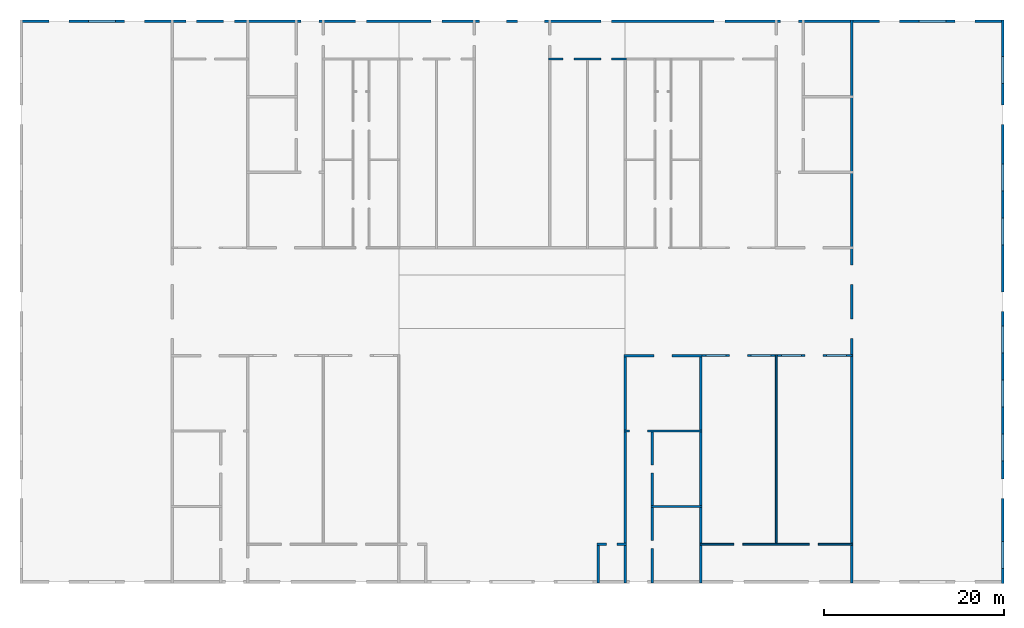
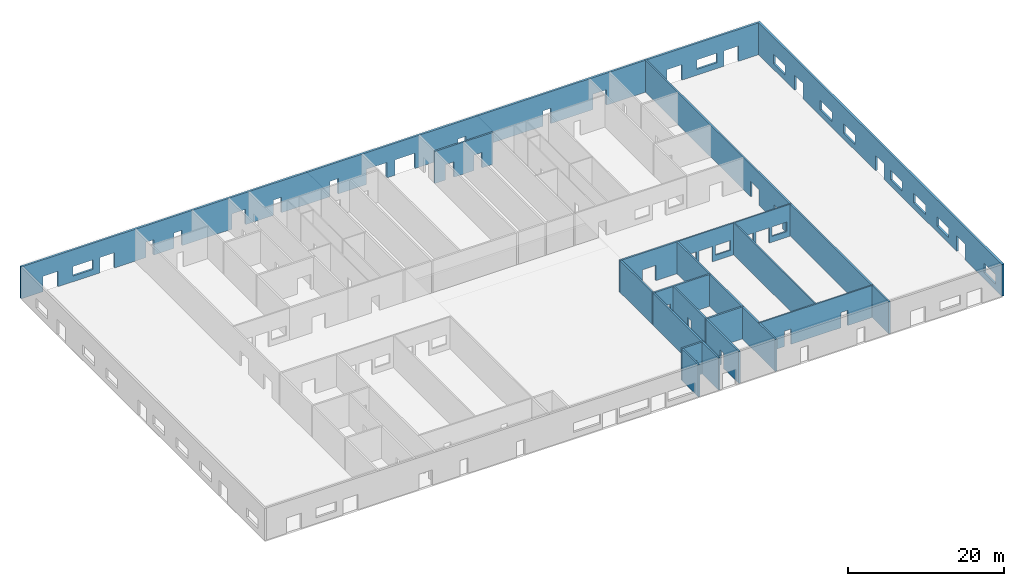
# One storey, part 3 of 4: 15 walls, 60 openings.
"""IFC4 building model written with IfcOpenShell, lengths in millimetres."""

import ifcopenshell
import ifcopenshell.guid

model = None  # the IFC model being written
_history = None  # IfcOwnerHistory: only IFC2X3 demands one
_inside = {}  # id of a spatial element -> (the spatial element, [elements in it])
_under = {}  # id of a project, library or spatial element -> (it, [spatial elements below it])
_declared = {}  # id of a project -> (the project, [libraries it declares])
_typed = {}  # id of a type object -> (the type object, [elements of that type])
_made_of = {}  # id of a material, layer set ... -> (it, [elements and type objects made of it])


def new_model(schema):
    """Start an empty IFC model of exactly this schema.

    Asked for "IFC4X3", IfcOpenShell would pick the latest addendum, in which some entities
    have other attributes; the version numbers below select the first issue.
    IFC2X3 requires an IfcOwnerHistory on every rooted entity: one is made here for all.
    """
    global model, _history
    if schema == "IFC4X3":
        model = ifcopenshell.file(schema_version=(4, 3, 0, 0))
    else:
        model = ifcopenshell.file(schema=schema)
    _inside.clear()
    _under.clear()
    _declared.clear()
    _typed.clear()
    _made_of.clear()
    _history = None
    if model.schema == "IFC2X3":
        org = make("IfcOrganization", Name="unknown")
        user = make(
            "IfcPersonAndOrganization",
            ThePerson=make("IfcPerson", FamilyName="unknown"),
            TheOrganization=org,
        )
        app = make(
            "IfcApplication",
            ApplicationDeveloper=org,
            Version="unknown",
            ApplicationFullName="unknown",
            ApplicationIdentifier="unknown",
        )
        _history = make(
            "IfcOwnerHistory",
            OwningUser=user,
            OwningApplication=app,
            ChangeAction="ADDED",
            CreationDate=0,
        )
    return model


def make(cls, **values):
    """One entity of the class cls with the attributes given. An attribute that is None is left unset."""
    return model.create_entity(
        cls, **{name: value for name, value in values.items() if value is not None}
    )


def rooted(cls, **values):
    """An entity with a GlobalId (a new one), such as an element, a storey or a relation."""
    return make(cls, GlobalId=ifcopenshell.guid.new(), OwnerHistory=_history, **values)


def si_unit(unit_type, name, prefix=None):
    """IfcSIUnit, for example si_unit("LENGTHUNIT", "METRE", prefix="MILLI")."""
    return make("IfcSIUnit", UnitType=unit_type, Prefix=prefix, Name=name)


def assignment(units):
    """IfcUnitAssignment: the units of a project."""
    return None if units is None else make("IfcUnitAssignment", Units=units)


def point(xyz):
    """IfcCartesianPoint."""
    return None if xyz is None else make("IfcCartesianPoint", Coordinates=xyz)


def direction(xyz):
    """IfcDirection."""
    return None if xyz is None else make("IfcDirection", DirectionRatios=xyz)


def frame(location, z_axis=None, x_axis=None):
    """IfcAxis2Placement3D, a coordinate frame: its origin and axes. An axis left out is left unset."""
    return make(
        "IfcAxis2Placement3D",
        Location=point(location),
        Axis=direction(z_axis),
        RefDirection=direction(x_axis),
    )


def origin_with_axes():
    """The frame at (0, 0, 0) with the z axis (0, 0, 1) and the x axis (1, 0, 0) written out."""
    return frame((0.0, 0.0, 0.0), z_axis=(0.0, 0.0, 1.0), x_axis=(1.0, 0.0, 0.0))


def place(relative_to, where):
    """IfcLocalPlacement: puts the frame where relative to a parent placement (None: the world)."""
    return make(
        "IfcLocalPlacement", PlacementRelTo=relative_to, RelativePlacement=where
    )


def context(
    kind, dimensions, precision=None, world=None, true_north=None, identifier=None
):
    """IfcGeometricRepresentationContext, for example the 3D "Model" context."""
    return make(
        "IfcGeometricRepresentationContext",
        ContextIdentifier=identifier,
        ContextType=kind,
        CoordinateSpaceDimension=dimensions,
        Precision=precision,
        WorldCoordinateSystem=world,
        TrueNorth=true_north,
    )


def subcontext(parent, identifier, kind, view, scale=None):
    """IfcGeometricRepresentationSubContext, for example "Body" below "Model"."""
    return make(
        "IfcGeometricRepresentationSubContext",
        ContextIdentifier=identifier,
        ContextType=kind,
        ParentContext=parent,
        TargetScale=scale,
        TargetView=view,
    )


def project(units=None, contexts=None):
    """IfcProject with its units and contexts."""
    return rooted(
        "IfcProject",
        Name="project",
        RepresentationContexts=contexts,
        UnitsInContext=assignment(units),
    )


def spatial(cls, under=None, at=None, **own):
    """A site, building, storey or space (cls), placed at a placement, below another one or the project."""
    s = rooted(cls, ObjectPlacement=at, **own)
    if under is not None:
        _under.setdefault(under.id(), (under, []))[1].append(s)
    return s


def point_list(points):
    """IfcCartesianPointList2D or 3D."""
    cls = (
        "IfcCartesianPointList2D" if len(points[0]) == 2 else "IfcCartesianPointList3D"
    )
    return make(cls, CoordList=points)


def indexed_curve(points, segments=None, self_intersect=None):
    """IfcIndexedPolyCurve: lines and arcs through numbered points (the first is 1)."""
    return make(
        "IfcIndexedPolyCurve",
        Points=point_list(points),
        Segments=segments,
        SelfIntersect=self_intersect,
    )


def outline(outer, holes=None, kind="AREA"):
    """IfcArbitraryClosedProfileDef: a profile drawn as a closed curve; with holes, ...WithVoids."""
    if holes is None:
        return make("IfcArbitraryClosedProfileDef", ProfileType=kind, OuterCurve=outer)
    return make(
        "IfcArbitraryProfileDefWithVoids",
        ProfileType=kind,
        OuterCurve=outer,
        InnerCurves=holes,
    )


def extrude(swept, where, along, depth):
    """IfcExtrudedAreaSolid: the profile swept, set in the frame where, extruded along a direction by depth."""
    return make(
        "IfcExtrudedAreaSolid",
        SweptArea=swept,
        Position=where,
        ExtrudedDirection=direction(along),
        Depth=depth,
    )


def shape(context_of_items, identifier, shape_type, items):
    """IfcShapeRepresentation: the items that make up one representation, for example the "Body"."""
    return make(
        "IfcShapeRepresentation",
        ContextOfItems=context_of_items,
        RepresentationIdentifier=identifier,
        RepresentationType=shape_type,
        Items=items,
    )


def made_of(thing, what):
    """Note that an element or type object is made of a material, layer set ...; save() writes the relation."""
    if what is not None:
        _made_of.setdefault(what.id(), (what, []))[1].append(thing)
    return thing


def type_object(cls, material=None, **own):
    """A type object (cls), such as IfcWallType, which elements share."""
    return made_of(rooted(cls, **own), material)


def element(
    cls,
    number,
    at=None,
    inside=None,
    cuts=None,
    type_object=None,
    material=None,
    context=None,
    identifier="Body",
    shape_type=None,
    held_by="IfcProductDefinitionShape",
    body=None,
    shapes=None,
    **own,
):
    """One element of the class cls, such as IfcWall. Its Tag is "e" and its number.

    at: its placement. inside: the storey or other place that contains it. cuts: it is an
    opening in that element (IfcRelVoidsElement). A single representation is given by context,
    identifier, shape_type and body (its items); several are given by shapes. held_by: the class
    of the entity that holds the representations. save() writes the other relations.
    """
    e = rooted(cls, Tag="e%d" % number, ObjectPlacement=at, **own)
    if body is not None:
        shapes = [shape(context, identifier, shape_type, body)]
    if shapes is not None:
        e.Representation = make(held_by, Representations=shapes)
    if inside is not None:
        _inside.setdefault(inside.id(), (inside, []))[1].append(e)
    if cuts is not None:
        rooted(
            "IfcRelVoidsElement", RelatingBuildingElement=cuts, RelatedOpeningElement=e
        )
    if type_object is not None:
        _typed.setdefault(type_object.id(), (type_object, []))[1].append(e)
    return made_of(e, material)


def aggregate(whole, parts):
    """IfcRelAggregates: a whole, such as a stair, and the parts it consists of."""
    return rooted("IfcRelAggregates", RelatingObject=whole, RelatedObjects=parts)


def save(model, path):
    """Write the relations noted so far, then the file.

    IfcRelAggregates (storeys below a building ...), IfcRelContainedInSpatialStructure (elements
    in a storey), IfcRelDefinesByType, IfcRelAssociatesMaterial and IfcRelDeclares: one each for
    every whole, place, type object, material and project.
    """
    for whole, parts in _under.values():
        aggregate(whole, parts)
    for where, things in _inside.values():
        rooted(
            "IfcRelContainedInSpatialStructure",
            RelatedElements=things,
            RelatingStructure=where,
        )
    for kind, things in _typed.values():
        rooted("IfcRelDefinesByType", RelatedObjects=things, RelatingType=kind)
    for what, things in _made_of.values():
        rooted("IfcRelAssociatesMaterial", RelatedObjects=things, RelatingMaterial=what)
    for by, libraries in _declared.values():
        rooted("IfcRelDeclares", RelatingContext=by, RelatedDefinitions=libraries)
    model.write(path)


model = new_model("IFC4")

# Units and contexts
model_context = context("Model", 3, precision=1e-05, world=origin_with_axes())
body_context = subcontext(model_context, "Body", "Model", "MODEL_VIEW")
ifc_project = project(units=[si_unit("AREAUNIT", "SQUARE_METRE"), si_unit("VOLUMEUNIT", "CUBIC_METRE"), si_unit("LENGTHUNIT", "METRE", prefix="MILLI")], contexts=[model_context])

# Site, building, storey
site = spatial("IfcSite", under=ifc_project, Name="PIN 00000000 (sample)")
building = spatial("IfcBuilding", under=site, Name="Sample Shopping Mall")
storey = spatial("IfcBuildingStorey", under=building, Name="Ground Floor", Elevation=0.0)

# Wall, openings
wall_type_1 = type_object("IfcWallType", Name="WT-300", PredefinedType="SOLIDWALL")
wall_1_placement = place(None, frame((5250.0, 77849.99999999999, 0.0), z_axis=(0.0, 0.0, 1.0), x_axis=(1.0, 0.0, 0.0)))
wall_1 = element("IfcWall", 1, at=wall_1_placement, inside=storey, type_object=wall_type_1, Name="W34", context=body_context, shape_type="SweptSolid", body=[
    extrude(outline(indexed_curve([(0.0, 0.0), (0.0, 300.0), (109499.99999999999, 300.0), (109499.99999999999, 0.0), (0.0, 0.0)], self_intersect=False)), origin_with_axes(), (0.0, 0.0, 1.0), 5000.0),
])
opening_1_placement = place(wall_1_placement, frame((3250.0, -99.9999999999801, 0.0), z_axis=(0.0, 0.0, 1.0), x_axis=(1.0, 0.0, 0.0)))
element("IfcOpeningElement", 2, at=opening_1_placement, cuts=wall_1, Name="D12-opening", context=body_context, shape_type="SweptSolid", body=[
    extrude(outline(indexed_curve([(0.0, 0.0), (0.0, 500.0), (1100.0, 500.0), (1100.0, 0.0), (0.0, 0.0)], self_intersect=False)), origin_with_axes(), (0.0, 0.0, 1.0), 2400.0),
])
opening_2_placement = place(wall_1_placement, frame((4350.000000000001, -99.9999999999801, 0.0), z_axis=(0.0, 0.0, 1.0), x_axis=(1.0, 0.0, 0.0)))
element("IfcOpeningElement", 3, at=opening_2_placement, cuts=wall_1, Name="-opening", context=body_context, shape_type="SweptSolid", body=[
    extrude(outline(indexed_curve([(0.0, 0.0), (0.0, 500.0), (1100.0, 500.0), (1100.0, 0.0), (0.0, 0.0)], self_intersect=False)), origin_with_axes(), (0.0, 0.0, 1.0), 2400.0),
])
opening_3_placement = place(wall_1_placement, frame((11649.999999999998, -99.9999999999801, 0.0), z_axis=(0.0, 0.0, 1.0), x_axis=(1.0, 0.0, 0.0)))
element("IfcOpeningElement", 4, at=opening_3_placement, cuts=wall_1, Name="D13-opening", context=body_context, shape_type="SweptSolid", body=[
    extrude(outline(indexed_curve([(0.0, 0.0), (0.0, 500.0), (1100.0, 500.0), (1100.0, 0.0), (0.0, 0.0)], self_intersect=False)), origin_with_axes(), (0.0, 0.0, 1.0), 2400.0),
])
opening_4_placement = place(wall_1_placement, frame((12750.0, -99.9999999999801, 0.0), z_axis=(0.0, 0.0, 1.0), x_axis=(1.0, 0.0, 0.0)))
element("IfcOpeningElement", 5, at=opening_4_placement, cuts=wall_1, Name="-opening", context=body_context, shape_type="SweptSolid", body=[
    extrude(outline(indexed_curve([(0.0, 0.0), (0.0, 500.0), (1100.0, 500.0), (1100.0, 0.0), (0.0, 0.0)], self_intersect=False)), origin_with_axes(), (0.0, 0.0, 1.0), 2400.0),
])
opening_5_placement = place(wall_1_placement, frame((95650.0, -99.9999999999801, 0.0), z_axis=(0.0, 0.0, 1.0), x_axis=(1.0, 0.0, 0.0)))
element("IfcOpeningElement", 6, at=opening_5_placement, cuts=wall_1, Name="D21-opening", context=body_context, shape_type="SweptSolid", body=[
    extrude(outline(indexed_curve([(0.0, 0.0), (0.0, 500.0), (1100.0, 500.0), (1100.0, 0.0), (0.0, 0.0)], self_intersect=False)), origin_with_axes(), (0.0, 0.0, 1.0), 2400.0),
])
opening_6_placement = place(wall_1_placement, frame((96750.0, -99.9999999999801, 0.0), z_axis=(0.0, 0.0, 1.0), x_axis=(1.0, 0.0, 0.0)))
element("IfcOpeningElement", 7, at=opening_6_placement, cuts=wall_1, Name="-opening", context=body_context, shape_type="SweptSolid", body=[
    extrude(outline(indexed_curve([(0.0, 0.0), (0.0, 500.0), (1100.0, 500.0), (1100.0, 0.0), (0.0, 0.0)], self_intersect=False)), origin_with_axes(), (0.0, 0.0, 1.0), 2400.0),
])
opening_7_placement = place(wall_1_placement, frame((104050.00000000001, -99.9999999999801, 0.0), z_axis=(0.0, 0.0, 1.0), x_axis=(1.0, 0.0, 0.0)))
element("IfcOpeningElement", 8, at=opening_7_placement, cuts=wall_1, Name="D22-opening", context=body_context, shape_type="SweptSolid", body=[
    extrude(outline(indexed_curve([(0.0, 0.0), (0.0, 500.0), (1100.0, 500.0), (1100.0, 0.0), (0.0, 0.0)], self_intersect=False)), origin_with_axes(), (0.0, 0.0, 1.0), 2400.0),
])
opening_8_placement = place(wall_1_placement, frame((105150.0, -99.9999999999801, 0.0), z_axis=(0.0, 0.0, 1.0), x_axis=(1.0, 0.0, 0.0)))
element("IfcOpeningElement", 9, at=opening_8_placement, cuts=wall_1, Name="-opening", context=body_context, shape_type="SweptSolid", body=[
    extrude(outline(indexed_curve([(0.0, 0.0), (0.0, 500.0), (1100.0, 500.0), (1100.0, 0.0), (0.0, 0.0)], self_intersect=False)), origin_with_axes(), (0.0, 0.0, 1.0), 2400.0),
])
opening_9_placement = place(wall_1_placement, frame((18450.000000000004, -99.9999999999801, 0.0), z_axis=(0.0, 0.0, 1.0), x_axis=(1.0, 0.0, 0.0)))
element("IfcOpeningElement", 10, at=opening_9_placement, cuts=wall_1, Name="D27-opening", context=body_context, shape_type="SweptSolid", body=[
    extrude(outline(indexed_curve([(0.0, 0.0), (0.0, 500.0), (1200.0, 500.0), (1200.0, 0.0), (0.0, 0.0)], self_intersect=False)), origin_with_axes(), (0.0, 0.0, 1.0), 2400.0),
])
opening_10_placement = place(wall_1_placement, frame((22649.999999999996, -99.9999999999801, 0.0), z_axis=(0.0, 0.0, 1.0), x_axis=(1.0, 0.0, 0.0)))
element("IfcOpeningElement", 11, at=opening_10_placement, cuts=wall_1, Name="D28-opening", context=body_context, shape_type="SweptSolid", body=[
    extrude(outline(indexed_curve([(0.0, 0.0), (0.0, 500.0), (1200.0, 500.0), (1200.0, 0.0), (0.0, 0.0)], self_intersect=False)), origin_with_axes(), (0.0, 0.0, 1.0), 2400.0),
])
opening_11_placement = place(wall_1_placement, frame((37350.0, -99.9999999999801, 0.0), z_axis=(0.0, 0.0, 1.0), x_axis=(1.0, 0.0, 0.0)))
element("IfcOpeningElement", 12, at=opening_11_placement, cuts=wall_1, Name="D29-opening", context=body_context, shape_type="SweptSolid", body=[
    extrude(outline(indexed_curve([(0.0, 0.0), (0.0, 500.0), (1200.0, 500.0), (1200.0, 0.0), (0.0, 0.0)], self_intersect=False)), origin_with_axes(), (0.0, 0.0, 1.0), 2400.0),
])
opening_12_placement = place(wall_1_placement, frame((45750.0, -99.9999999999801, 0.0), z_axis=(0.0, 0.0, 1.0), x_axis=(1.0, 0.0, 0.0)))
element("IfcOpeningElement", 13, at=opening_12_placement, cuts=wall_1, Name="D30-opening", context=body_context, shape_type="SweptSolid", body=[
    extrude(outline(indexed_curve([(0.0, 0.0), (0.0, 500.0), (1200.0, 500.0), (1200.0, 0.0), (0.0, 0.0)], self_intersect=False)), origin_with_axes(), (0.0, 0.0, 1.0), 2400.0),
])
opening_13_placement = place(wall_1_placement, frame((64650.00000000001, -99.9999999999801, 0.0), z_axis=(0.0, 0.0, 1.0), x_axis=(1.0, 0.0, 0.0)))
element("IfcOpeningElement", 14, at=opening_13_placement, cuts=wall_1, Name="D31-opening", context=body_context, shape_type="SweptSolid", body=[
    extrude(outline(indexed_curve([(0.0, 0.0), (0.0, 500.0), (1200.0, 500.0), (1200.0, 0.0), (0.0, 0.0)], self_intersect=False)), origin_with_axes(), (0.0, 0.0, 1.0), 2400.0),
])
opening_14_placement = place(wall_1_placement, frame((77250.0, -99.9999999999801, 0.0), z_axis=(0.0, 0.0, 1.0), x_axis=(1.0, 0.0, 0.0)))
element("IfcOpeningElement", 15, at=opening_14_placement, cuts=wall_1, Name="D32-opening", context=body_context, shape_type="SweptSolid", body=[
    extrude(outline(indexed_curve([(0.0, 0.0), (0.0, 500.0), (1200.0, 500.0), (1200.0, 0.0), (0.0, 0.0)], self_intersect=False)), origin_with_axes(), (0.0, 0.0, 1.0), 2400.0),
])
opening_15_placement = place(wall_1_placement, frame((31250.0, -99.9999999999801, 0.0), z_axis=(0.0, 0.0, 1.0), x_axis=(1.0, 0.0, 0.0)))
element("IfcOpeningElement", 16, at=opening_15_placement, cuts=wall_1, Name="D56-opening", context=body_context, shape_type="SweptSolid", body=[
    extrude(outline(indexed_curve([(0.0, 0.0), (0.0, 500.0), (1000.0, 500.0), (1000.0, 0.0), (0.0, 0.0)], self_intersect=False)), origin_with_axes(), (0.0, 0.0, 1.0), 2400.0),
])
opening_16_placement = place(wall_1_placement, frame((32250.0, -99.9999999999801, 0.0), z_axis=(0.0, 0.0, 1.0), x_axis=(1.0, 0.0, 0.0)))
element("IfcOpeningElement", 17, at=opening_16_placement, cuts=wall_1, Name="-opening", context=body_context, shape_type="SweptSolid", body=[
    extrude(outline(indexed_curve([(0.0, 0.0), (0.0, 500.0), (1000.0, 500.0), (1000.0, 0.0), (0.0, 0.0)], self_intersect=False)), origin_with_axes(), (0.0, 0.0, 1.0), 2400.0),
])
opening_17_placement = place(wall_1_placement, frame((51150.0, -99.9999999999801, 0.0), z_axis=(0.0, 0.0, 1.0), x_axis=(1.0, 0.0, 0.0)))
element("IfcOpeningElement", 18, at=opening_17_placement, cuts=wall_1, Name="D68-opening", context=body_context, shape_type="SweptSolid", body=[
    extrude(outline(indexed_curve([(0.0, 0.0), (0.0, 500.0), (1500.0, 500.0), (1500.0, 0.0), (0.0, 0.0)], self_intersect=False)), origin_with_axes(), (0.0, 0.0, 1.0), 2400.0),
])
opening_18_placement = place(wall_1_placement, frame((52650.0, -99.9999999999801, 0.0), z_axis=(0.0, 0.0, 1.0), x_axis=(1.0, 0.0, 0.0)))
element("IfcOpeningElement", 19, at=opening_18_placement, cuts=wall_1, Name="-opening", context=body_context, shape_type="SweptSolid", body=[
    extrude(outline(indexed_curve([(0.0, 0.0), (0.0, 500.0), (1500.0, 500.0), (1500.0, 0.0), (0.0, 0.0)], self_intersect=False)), origin_with_axes(), (0.0, 0.0, 1.0), 2400.0),
])
opening_19_placement = place(wall_1_placement, frame((55350.0, -99.9999999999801, 0.0), z_axis=(0.0, 0.0, 1.0), x_axis=(1.0, 0.0, 0.0)))
element("IfcOpeningElement", 20, at=opening_19_placement, cuts=wall_1, Name="D69-opening", context=body_context, shape_type="SweptSolid", body=[
    extrude(outline(indexed_curve([(0.0, 0.0), (0.0, 500.0), (1500.0, 500.0), (1500.0, 0.0), (0.0, 0.0)], self_intersect=False)), origin_with_axes(), (0.0, 0.0, 1.0), 2400.0),
])
opening_20_placement = place(wall_1_placement, frame((56850.0, -99.9999999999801, 0.0), z_axis=(0.0, 0.0, 1.0), x_axis=(1.0, 0.0, 0.0)))
element("IfcOpeningElement", 21, at=opening_20_placement, cuts=wall_1, Name="-opening", context=body_context, shape_type="SweptSolid", body=[
    extrude(outline(indexed_curve([(0.0, 0.0), (0.0, 500.0), (1500.0, 500.0), (1500.0, 0.0), (0.0, 0.0)], self_intersect=False)), origin_with_axes(), (0.0, 0.0, 1.0), 2400.0),
])
opening_21_placement = place(wall_1_placement, frame((84650.0, -99.9999999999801, 0.0), z_axis=(0.0, 0.0, 1.0), x_axis=(1.0, 0.0, 0.0)))
element("IfcOpeningElement", 22, at=opening_21_placement, cuts=wall_1, Name="D84-opening", context=body_context, shape_type="SweptSolid", body=[
    extrude(outline(indexed_curve([(0.0, 0.0), (0.0, 500.0), (1000.0, 500.0), (1000.0, 0.0), (0.0, 0.0)], self_intersect=False)), origin_with_axes(), (0.0, 0.0, 1.0), 2400.0),
])
opening_22_placement = place(wall_1_placement, frame((85650.0, -99.9999999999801, 0.0), z_axis=(0.0, 0.0, 1.0), x_axis=(1.0, 0.0, 0.0)))
element("IfcOpeningElement", 23, at=opening_22_placement, cuts=wall_1, Name="-opening", context=body_context, shape_type="SweptSolid", body=[
    extrude(outline(indexed_curve([(0.0, 0.0), (0.0, 500.0), (1000.0, 500.0), (1000.0, 0.0), (0.0, 0.0)], self_intersect=False)), origin_with_axes(), (0.0, 0.0, 1.0), 2400.0),
])
opening_23_placement = place(wall_1_placement, frame((7650.0, -99.9999999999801, 900.0), z_axis=(0.0, 0.0, 1.0), x_axis=(1.0, 0.0, 0.0)))
element("IfcOpeningElement", 24, at=opening_23_placement, cuts=wall_1, Name="-opening", context=body_context, shape_type="SweptSolid", body=[
    extrude(outline(indexed_curve([(0.0, 0.0), (0.0, 500.0), (3000.0, 500.0), (3000.0, 0.0), (0.0, 0.0)], self_intersect=False)), origin_with_axes(), (0.0, 0.0, 1.0), 1500.0),
])
opening_24_placement = place(wall_1_placement, frame((100050.00000000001, -99.9999999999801, 900.0), z_axis=(0.0, 0.0, 1.0), x_axis=(1.0, 0.0, 0.0)))
element("IfcOpeningElement", 25, at=opening_24_placement, cuts=wall_1, Name="-opening", context=body_context, shape_type="SweptSolid", body=[
    extrude(outline(indexed_curve([(0.0, 0.0), (0.0, 500.0), (3000.0, 500.0), (3000.0, 0.0), (0.0, 0.0)], self_intersect=False)), origin_with_axes(), (0.0, 0.0, 1.0), 1500.0),
])

wall_2_placement = place(None, frame((114750.0, 15449.999999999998, 0.0), z_axis=(0.0, 0.0, 1.0), x_axis=(6.123233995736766e-17, 1.0, 0.0)))
wall_2 = element("IfcWall", 26, at=wall_2_placement, inside=storey, type_object=wall_type_1, Name="W65", context=body_context, shape_type="SweptSolid", body=[
    extrude(outline(indexed_curve([(0.0, 0.0), (0.0, 300.0), (62699.99999999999, 300.0), (62699.99999999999, 0.0), (0.0, 0.0)], self_intersect=False)), origin_with_axes(), (0.0, 0.0, 1.0), 5000.0),
])
opening_25_placement = place(wall_2_placement, frame((9450.0, -99.99999999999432, 0.0), z_axis=(0.0, 0.0, 1.0), x_axis=(1.0, 0.0, 0.0)))
element("IfcOpeningElement", 27, at=opening_25_placement, cuts=wall_2, Name="D16-opening", context=body_context, shape_type="SweptSolid", body=[
    extrude(outline(indexed_curve([(0.0, 0.0), (0.0, 500.0), (1100.0, 500.0), (1100.0, 0.0), (0.0, 0.0)], self_intersect=False)), origin_with_axes(), (0.0, 0.0, 1.0), 2400.0),
])
opening_26_placement = place(wall_2_placement, frame((10550.0, -99.99999999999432, 0.0), z_axis=(0.0, 0.0, 1.0), x_axis=(1.0, 0.0, 0.0)))
element("IfcOpeningElement", 28, at=opening_26_placement, cuts=wall_2, Name="-opening", context=body_context, shape_type="SweptSolid", body=[
    extrude(outline(indexed_curve([(0.0, 0.0), (0.0, 500.0), (1100.0, 500.0), (1100.0, 0.0), (0.0, 0.0)], self_intersect=False)), origin_with_axes(), (0.0, 0.0, 1.0), 2400.0),
])
opening_27_placement = place(wall_2_placement, frame((30250.000000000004, -99.99999999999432, 0.0), z_axis=(0.0, 0.0, 1.0), x_axis=(1.0, 0.0, 0.0)))
element("IfcOpeningElement", 29, at=opening_27_placement, cuts=wall_2, Name="D17-opening", context=body_context, shape_type="SweptSolid", body=[
    extrude(outline(indexed_curve([(0.0, 0.0), (0.0, 500.0), (1100.0, 500.0), (1100.0, 0.0), (0.0, 0.0)], self_intersect=False)), origin_with_axes(), (0.0, 0.0, 1.0), 2400.0),
])
opening_28_placement = place(wall_2_placement, frame((31349.999999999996, -99.99999999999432, 0.0), z_axis=(0.0, 0.0, 1.0), x_axis=(1.0, 0.0, 0.0)))
element("IfcOpeningElement", 30, at=opening_28_placement, cuts=wall_2, Name="-opening", context=body_context, shape_type="SweptSolid", body=[
    extrude(outline(indexed_curve([(0.0, 0.0), (0.0, 500.0), (1100.0, 500.0), (1100.0, 0.0), (0.0, 0.0)], self_intersect=False)), origin_with_axes(), (0.0, 0.0, 1.0), 2400.0),
])
opening_29_placement = place(wall_2_placement, frame((51049.99999999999, -99.99999999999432, 0.0), z_axis=(0.0, 0.0, 1.0), x_axis=(1.0, 0.0, 0.0)))
element("IfcOpeningElement", 31, at=opening_29_placement, cuts=wall_2, Name="D18-opening", context=body_context, shape_type="SweptSolid", body=[
    extrude(outline(indexed_curve([(0.0, 0.0), (0.0, 500.0), (1100.0, 500.0), (1100.0, 0.0), (0.0, 0.0)], self_intersect=False)), origin_with_axes(), (0.0, 0.0, 1.0), 2400.0),
])
opening_30_placement = place(wall_2_placement, frame((52149.99999999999, -99.99999999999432, 0.0), z_axis=(0.0, 0.0, 1.0), x_axis=(1.0, 0.0, 0.0)))
element("IfcOpeningElement", 32, at=opening_30_placement, cuts=wall_2, Name="-opening", context=body_context, shape_type="SweptSolid", body=[
    extrude(outline(indexed_curve([(0.0, 0.0), (0.0, 500.0), (1100.0, 500.0), (1100.0, 0.0), (0.0, 0.0)], self_intersect=False)), origin_with_axes(), (0.0, 0.0, 1.0), 2400.0),
])
opening_31_placement = place(wall_2_placement, frame((1650.000000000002, -99.99999999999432, 900.0), z_axis=(0.0, 0.0, 1.0), x_axis=(1.0, 0.0, 0.0)))
element("IfcOpeningElement", 33, at=opening_31_placement, cuts=wall_2, Name="-opening", context=body_context, shape_type="SweptSolid", body=[
    extrude(outline(indexed_curve([(0.0, 0.0), (0.0, 500.0), (3000.0, 500.0), (3000.0, 0.0), (0.0, 0.0)], self_intersect=False)), origin_with_axes(), (0.0, 0.0, 1.0), 1500.0),
])
opening_32_placement = place(wall_2_placement, frame((13650.000000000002, -99.99999999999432, 900.0), z_axis=(0.0, 0.0, 1.0), x_axis=(1.0, 0.0, 0.0)))
element("IfcOpeningElement", 34, at=opening_32_placement, cuts=wall_2, Name="-opening", context=body_context, shape_type="SweptSolid", body=[
    extrude(outline(indexed_curve([(0.0, 0.0), (0.0, 500.0), (3000.0, 500.0), (3000.0, 0.0), (0.0, 0.0)], self_intersect=False)), origin_with_axes(), (0.0, 0.0, 1.0), 1500.0),
])
opening_33_placement = place(wall_2_placement, frame((19650.0, -99.99999999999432, 900.0), z_axis=(0.0, 0.0, 1.0), x_axis=(1.0, 0.0, 0.0)))
element("IfcOpeningElement", 35, at=opening_33_placement, cuts=wall_2, Name="-opening", context=body_context, shape_type="SweptSolid", body=[
    extrude(outline(indexed_curve([(0.0, 0.0), (0.0, 500.0), (3000.0, 500.0), (3000.0, 0.0), (0.0, 0.0)], self_intersect=False)), origin_with_axes(), (0.0, 0.0, 1.0), 1500.0),
])
opening_34_placement = place(wall_2_placement, frame((25650.0, -99.99999999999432, 900.0), z_axis=(0.0, 0.0, 1.0), x_axis=(1.0, 0.0, 0.0)))
element("IfcOpeningElement", 36, at=opening_34_placement, cuts=wall_2, Name="-opening", context=body_context, shape_type="SweptSolid", body=[
    extrude(outline(indexed_curve([(0.0, 0.0), (0.0, 500.0), (3000.0, 500.0), (3000.0, 0.0), (0.0, 0.0)], self_intersect=False)), origin_with_axes(), (0.0, 0.0, 1.0), 1500.0),
])
opening_35_placement = place(wall_2_placement, frame((37650.00000000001, -99.99999999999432, 900.0), z_axis=(0.0, 0.0, 1.0), x_axis=(1.0, 0.0, 0.0)))
element("IfcOpeningElement", 37, at=opening_35_placement, cuts=wall_2, Name="-opening", context=body_context, shape_type="SweptSolid", body=[
    extrude(outline(indexed_curve([(0.0, 0.0), (0.0, 500.0), (3000.0, 500.0), (3000.0, 0.0), (0.0, 0.0)], self_intersect=False)), origin_with_axes(), (0.0, 0.0, 1.0), 1500.0),
])
opening_36_placement = place(wall_2_placement, frame((43650.00000000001, -99.99999999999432, 900.0), z_axis=(0.0, 0.0, 1.0), x_axis=(1.0, 0.0, 0.0)))
element("IfcOpeningElement", 38, at=opening_36_placement, cuts=wall_2, Name="-opening", context=body_context, shape_type="SweptSolid", body=[
    extrude(outline(indexed_curve([(0.0, 0.0), (0.0, 500.0), (3000.0, 500.0), (3000.0, 0.0), (0.0, 0.0)], self_intersect=False)), origin_with_axes(), (0.0, 0.0, 1.0), 1500.0),
])
opening_37_placement = place(wall_2_placement, frame((55650.00000000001, -99.99999999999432, 900.0), z_axis=(0.0, 0.0, 1.0), x_axis=(1.0, 0.0, 0.0)))
element("IfcOpeningElement", 39, at=opening_37_placement, cuts=wall_2, Name="-opening", context=body_context, shape_type="SweptSolid", body=[
    extrude(outline(indexed_curve([(0.0, 0.0), (0.0, 500.0), (3000.0, 500.0), (3000.0, 0.0), (0.0, 0.0)], self_intersect=False)), origin_with_axes(), (0.0, 0.0, 1.0), 1500.0),
])

wall_type_2 = type_object("IfcWallType", Name="WT-200", PredefinedType="SOLIDWALL")
wall_3_placement = place(None, frame((80900.0, 19700.0, 0.0), z_axis=(0.0, 0.0, 1.0), x_axis=(1.0, 0.0, 0.0)))
wall_3 = element("IfcWall", 40, at=wall_3_placement, inside=storey, type_object=wall_type_2, Name="W4", context=body_context, shape_type="SweptSolid", body=[
    extrude(outline(indexed_curve([(0.0, 0.0), (0.0, 200.0), (16999.999999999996, 200.0), (16999.999999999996, 0.0), (0.0, 0.0)], self_intersect=False)), origin_with_axes(), (0.0, 0.0, 1.0), 5000.0),
])
opening_38_placement = place(wall_3_placement, frame((3799.9999999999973, -99.99999999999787, 0.0), z_axis=(0.0, 0.0, 1.0), x_axis=(1.0, 0.0, 0.0)))
element("IfcOpeningElement", 41, at=opening_38_placement, cuts=wall_3, Name="-opening", context=body_context, shape_type="SweptSolid", body=[
    extrude(outline(indexed_curve([(0.0, 0.0), (0.0, 400.0), (1000.0, 400.0), (1000.0, 0.0), (0.0, 0.0)], self_intersect=False)), origin_with_axes(), (0.0, 0.0, 1.0), 2400.0),
])
opening_39_placement = place(wall_3_placement, frame((12199.999999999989, -99.99999999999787, 0.0), z_axis=(0.0, 0.0, 1.0), x_axis=(1.0, 0.0, 0.0)))
element("IfcOpeningElement", 42, at=opening_39_placement, cuts=wall_3, Name="-opening", context=body_context, shape_type="SweptSolid", body=[
    extrude(outline(indexed_curve([(0.0, 0.0), (0.0, 400.0), (1000.0, 400.0), (1000.0, 0.0), (0.0, 0.0)], self_intersect=False)), origin_with_axes(), (0.0, 0.0, 1.0), 2400.0),
])

wall_4_placement = place(None, frame((80900.0, 40699.99999999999, 0.0), z_axis=(0.0, 0.0, 1.0), x_axis=(1.0, 0.0, 0.0)))
wall_4 = element("IfcWall", 43, at=wall_4_placement, inside=storey, type_object=wall_type_2, Name="W12", context=body_context, shape_type="SweptSolid", body=[
    extrude(outline(indexed_curve([(0.0, 0.0), (0.0, 200.0), (16999.999999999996, 200.0), (16999.999999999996, 0.0), (0.0, 0.0)], self_intersect=False)), origin_with_axes(), (0.0, 0.0, 1.0), 5000.0),
])
opening_40_placement = place(wall_4_placement, frame((3299.9999999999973, -100.00000000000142, 0.0), z_axis=(0.0, 0.0, 1.0), x_axis=(1.0, 0.0, 0.0)))
element("IfcOpeningElement", 44, at=opening_40_placement, cuts=wall_4, Name="D48-opening", context=body_context, shape_type="SweptSolid", body=[
    extrude(outline(indexed_curve([(0.0, 0.0), (0.0, 400.0), (1000.0, 400.0), (1000.0, 0.0), (0.0, 0.0)], self_intersect=False)), origin_with_axes(), (0.0, 0.0, 1.0), 2400.0),
])
opening_41_placement = place(wall_4_placement, frame((4299.999999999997, -100.00000000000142, 0.0), z_axis=(0.0, 0.0, 1.0), x_axis=(1.0, 0.0, 0.0)))
element("IfcOpeningElement", 45, at=opening_41_placement, cuts=wall_4, Name="-opening", context=body_context, shape_type="SweptSolid", body=[
    extrude(outline(indexed_curve([(0.0, 0.0), (0.0, 400.0), (1000.0, 400.0), (1000.0, 0.0), (0.0, 0.0)], self_intersect=False)), origin_with_axes(), (0.0, 0.0, 1.0), 2400.0),
])
opening_42_placement = place(wall_4_placement, frame((11699.999999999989, -100.00000000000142, 0.0), z_axis=(0.0, 0.0, 1.0), x_axis=(1.0, 0.0, 0.0)))
element("IfcOpeningElement", 46, at=opening_42_placement, cuts=wall_4, Name="D50-opening", context=body_context, shape_type="SweptSolid", body=[
    extrude(outline(indexed_curve([(0.0, 0.0), (0.0, 400.0), (1000.0, 400.0), (1000.0, 0.0), (0.0, 0.0)], self_intersect=False)), origin_with_axes(), (0.0, 0.0, 1.0), 2400.0),
])
opening_43_placement = place(wall_4_placement, frame((12699.999999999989, -100.00000000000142, 0.0), z_axis=(0.0, 0.0, 1.0), x_axis=(1.0, 0.0, 0.0)))
element("IfcOpeningElement", 47, at=opening_43_placement, cuts=wall_4, Name="-opening", context=body_context, shape_type="SweptSolid", body=[
    extrude(outline(indexed_curve([(0.0, 0.0), (0.0, 400.0), (1000.0, 400.0), (1000.0, 0.0), (0.0, 0.0)], self_intersect=False)), origin_with_axes(), (0.0, 0.0, 1.0), 2400.0),
])
opening_44_placement = place(wall_4_placement, frame((699.9999999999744, -100.00000000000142, 900.0), z_axis=(0.0, 0.0, 1.0), x_axis=(1.0, 0.0, 0.0)))
element("IfcOpeningElement", 48, at=opening_44_placement, cuts=wall_4, Name="-opening", context=body_context, shape_type="SweptSolid", body=[
    extrude(outline(indexed_curve([(0.0, 0.0), (0.0, 400.0), (2200.0, 400.0), (2200.0, 0.0), (0.0, 0.0)], self_intersect=False)), origin_with_axes(), (0.0, 0.0, 1.0), 1500.0),
])
opening_45_placement = place(wall_4_placement, frame((5699.999999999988, -100.00000000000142, 900.0), z_axis=(0.0, 0.0, 1.0), x_axis=(1.0, 0.0, 0.0)))
element("IfcOpeningElement", 49, at=opening_45_placement, cuts=wall_4, Name="-opening", context=body_context, shape_type="SweptSolid", body=[
    extrude(outline(indexed_curve([(0.0, 0.0), (0.0, 400.0), (2200.0, 400.0), (2200.0, 0.0), (0.0, 0.0)], self_intersect=False)), origin_with_axes(), (0.0, 0.0, 1.0), 1500.0),
])
opening_46_placement = place(wall_4_placement, frame((9099.999999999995, -100.00000000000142, 900.0), z_axis=(0.0, 0.0, 1.0), x_axis=(1.0, 0.0, 0.0)))
element("IfcOpeningElement", 50, at=opening_46_placement, cuts=wall_4, Name="-opening", context=body_context, shape_type="SweptSolid", body=[
    extrude(outline(indexed_curve([(0.0, 0.0), (0.0, 400.0), (2200.0, 400.0), (2200.0, 0.0), (0.0, 0.0)], self_intersect=False)), origin_with_axes(), (0.0, 0.0, 1.0), 1500.0),
])
opening_47_placement = place(wall_4_placement, frame((14099.999999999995, -100.00000000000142, 900.0), z_axis=(0.0, 0.0, 1.0), x_axis=(1.0, 0.0, 0.0)))
element("IfcOpeningElement", 51, at=opening_47_placement, cuts=wall_4, Name="-opening", context=body_context, shape_type="SweptSolid", body=[
    extrude(outline(indexed_curve([(0.0, 0.0), (0.0, 400.0), (2200.0, 400.0), (2200.0, 0.0), (0.0, 0.0)], self_intersect=False)), origin_with_axes(), (0.0, 0.0, 1.0), 1500.0),
])

# Wall
wall_5_placement = place(None, frame((89500.0, 19700.0, 0.0), z_axis=(0.0, 0.0, 1.0), x_axis=(6.123233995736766e-17, 1.0, 0.0)))
element("IfcWall", 52, at=wall_5_placement, inside=storey, type_object=wall_type_2, Name="W61", context=body_context, shape_type="SweptSolid", body=[
    extrude(outline(indexed_curve([(0.0, 0.0), (0.0, 200.0), (21199.999999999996, 200.0), (21199.999999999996, 0.0), (0.0, 0.0)], self_intersect=False)), origin_with_axes(), (0.0, 0.0, 1.0), 5000.0),
])

# Wall, opening
wall_type_3 = type_object("IfcWallType", Name="WT-250", PredefinedType="SOLIDWALL")
wall_6_placement = place(None, frame((69475.0, 19675.0, 0.0), z_axis=(0.0, 0.0, 1.0), x_axis=(1.0, 0.0, 0.0)))
wall_6 = element("IfcWall", 53, at=wall_6_placement, inside=storey, type_object=wall_type_3, Name="W3", context=body_context, shape_type="SweptSolid", body=[
    extrude(outline(indexed_curve([(0.0, 0.0), (0.0, 250.0), (3250.0, 250.0), (3250.0, 0.0), (0.0, 0.0)], self_intersect=False)), origin_with_axes(), (0.0, 0.0, 1.0), 5000.0),
])
opening_48_placement = place(wall_6_placement, frame((1024.9999999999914, -100.00000000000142, 0.0), z_axis=(0.0, 0.0, 1.0), x_axis=(1.0, 0.0, 0.0)))
element("IfcOpeningElement", 54, at=opening_48_placement, cuts=wall_6, Name="D02-opening", context=body_context, shape_type="SweptSolid", body=[
    extrude(outline(indexed_curve([(0.0, 0.0), (0.0, 450.0), (1200.0, 450.0), (1200.0, 0.0), (0.0, 0.0)], self_intersect=False)), origin_with_axes(), (0.0, 0.0, 1.0), 2400.0),
])

# Wall
wall_7_placement = place(None, frame((75475.0, 23875.0, 0.0), z_axis=(0.0, 0.0, 1.0), x_axis=(1.0, 0.0, 0.0)))
element("IfcWall", 55, at=wall_7_placement, inside=storey, type_object=wall_type_3, Name="W6", context=body_context, shape_type="SweptSolid", body=[
    extrude(outline(indexed_curve([(0.0, 0.0), (0.0, 250.0), (5650.0000000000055, 250.0), (5650.0000000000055, 0.0), (0.0, 0.0)], self_intersect=False)), origin_with_axes(), (0.0, 0.0, 1.0), 5000.0),
])

# Wall, openings
wall_8_placement = place(None, frame((72475.0, 32274.999999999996, 0.0), z_axis=(0.0, 0.0, 1.0), x_axis=(1.0, 0.0, 0.0)))
wall_8 = element("IfcWall", 56, at=wall_8_placement, inside=storey, type_object=wall_type_3, Name="W8", context=body_context, shape_type="SweptSolid", body=[
    extrude(outline(indexed_curve([(0.0, 0.0), (0.0, 250.0), (8650.000000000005, 250.0), (8650.000000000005, 0.0), (0.0, 0.0)], self_intersect=False)), origin_with_axes(), (0.0, 0.0, 1.0), 5000.0),
])
opening_49_placement = place(wall_8_placement, frame((625.0, -100.00000000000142, 0.0), z_axis=(0.0, 0.0, 1.0), x_axis=(1.0, 0.0, 0.0)))
element("IfcOpeningElement", 57, at=opening_49_placement, cuts=wall_8, Name="D44-opening", context=body_context, shape_type="SweptSolid", body=[
    extrude(outline(indexed_curve([(0.0, 0.0), (0.0, 450.0), (1000.0, 450.0), (1000.0, 0.0), (0.0, 0.0)], self_intersect=False)), origin_with_axes(), (0.0, 0.0, 1.0), 2400.0),
])
opening_50_placement = place(wall_8_placement, frame((1625.0, -100.00000000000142, 0.0), z_axis=(0.0, 0.0, 1.0), x_axis=(1.0, 0.0, 0.0)))
element("IfcOpeningElement", 58, at=opening_50_placement, cuts=wall_8, Name="-opening", context=body_context, shape_type="SweptSolid", body=[
    extrude(outline(indexed_curve([(0.0, 0.0), (0.0, 450.0), (1000.0, 450.0), (1000.0, 0.0), (0.0, 0.0)], self_intersect=False)), origin_with_axes(), (0.0, 0.0, 1.0), 2400.0),
])

wall_9_placement = place(None, frame((72475.0, 40674.99999999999, 0.0), z_axis=(0.0, 0.0, 1.0), x_axis=(1.0, 0.0, 0.0)))
wall_9 = element("IfcWall", 59, at=wall_9_placement, inside=storey, type_object=wall_type_3, Name="W11", context=body_context, shape_type="SweptSolid", body=[
    extrude(outline(indexed_curve([(0.0, 0.0), (0.0, 250.0), (8650.000000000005, 250.0), (8650.000000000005, 0.0), (0.0, 0.0)], self_intersect=False)), origin_with_axes(), (0.0, 0.0, 1.0), 5000.0),
])
opening_51_placement = place(wall_9_placement, frame((3324.9999999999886, -99.99999999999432, 0.0), z_axis=(0.0, 0.0, 1.0), x_axis=(1.0, 0.0, 0.0)))
element("IfcOpeningElement", 60, at=opening_51_placement, cuts=wall_9, Name="D43-opening", context=body_context, shape_type="SweptSolid", body=[
    extrude(outline(indexed_curve([(0.0, 0.0), (0.0, 450.0), (1000.0, 450.0), (1000.0, 0.0), (0.0, 0.0)], self_intersect=False)), origin_with_axes(), (0.0, 0.0, 1.0), 2400.0),
])
opening_52_placement = place(wall_9_placement, frame((4324.999999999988, -99.99999999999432, 0.0), z_axis=(0.0, 0.0, 1.0), x_axis=(1.0, 0.0, 0.0)))
element("IfcOpeningElement", 61, at=opening_52_placement, cuts=wall_9, Name="-opening", context=body_context, shape_type="SweptSolid", body=[
    extrude(outline(indexed_curve([(0.0, 0.0), (0.0, 450.0), (1000.0, 450.0), (1000.0, 0.0), (0.0, 0.0)], self_intersect=False)), origin_with_axes(), (0.0, 0.0, 1.0), 2400.0),
])

wall_10_placement = place(None, frame((64075.0, 73675.0, 0.0), z_axis=(0.0, 0.0, 1.0), x_axis=(1.0, 0.0, 0.0)))
wall_10 = element("IfcWall", 62, at=wall_10_placement, inside=storey, type_object=wall_type_3, Name="W32", context=body_context, shape_type="SweptSolid", body=[
    extrude(outline(indexed_curve([(0.0, 0.0), (0.0, 250.0), (8649.99999999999, 250.0), (8649.99999999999, 0.0), (0.0, 0.0)], self_intersect=False)), origin_with_axes(), (0.0, 0.0, 1.0), 5000.0),
])
opening_53_placement = place(wall_10_placement, frame((1625.0, -99.99999999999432, 0.0), z_axis=(0.0, 0.0, 1.0), x_axis=(1.0, 0.0, 0.0)))
element("IfcOpeningElement", 63, at=opening_53_placement, cuts=wall_10, Name="-opening", context=body_context, shape_type="SweptSolid", body=[
    extrude(outline(indexed_curve([(0.0, 0.0), (0.0, 450.0), (1200.0, 450.0), (1200.0, 0.0), (0.0, 0.0)], self_intersect=False)), origin_with_axes(), (0.0, 0.0, 1.0), 2400.0),
])
opening_54_placement = place(wall_10_placement, frame((5825.000000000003, -99.99999999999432, 0.0), z_axis=(0.0, 0.0, 1.0), x_axis=(1.0, 0.0, 0.0)))
element("IfcOpeningElement", 64, at=opening_54_placement, cuts=wall_10, Name="-opening", context=body_context, shape_type="SweptSolid", body=[
    extrude(outline(indexed_curve([(0.0, 0.0), (0.0, 450.0), (1200.0, 450.0), (1200.0, 0.0), (0.0, 0.0)], self_intersect=False)), origin_with_axes(), (0.0, 0.0, 1.0), 2400.0),
])

# Walls
wall_11_placement = place(None, frame((69725.0, 15475.0, 0.0), z_axis=(0.0, 0.0, 1.0), x_axis=(6.123233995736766e-17, 1.0, 0.0)))
element("IfcWall", 65, at=wall_11_placement, inside=storey, type_object=wall_type_3, Name="W53", context=body_context, shape_type="SweptSolid", body=[
    extrude(outline(indexed_curve([(0.0, 0.0), (0.0, 250.0), (4450.000000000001, 250.0), (4450.000000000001, 0.0), (0.0, 0.0)], self_intersect=False)), origin_with_axes(), (0.0, 0.0, 1.0), 5000.0),
])
wall_12_placement = place(None, frame((72725.0, 15475.0, 0.0), z_axis=(0.0, 0.0, 1.0), x_axis=(6.123233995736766e-17, 1.0, 0.0)))
element("IfcWall", 66, at=wall_12_placement, inside=storey, type_object=wall_type_3, Name="W54", context=body_context, shape_type="SweptSolid", body=[
    extrude(outline(indexed_curve([(0.0, 0.0), (0.0, 250.0), (25449.999999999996, 250.0), (25449.999999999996, 0.0), (0.0, 0.0)], self_intersect=False)), origin_with_axes(), (0.0, 0.0, 1.0), 5000.0),
])

# Wall, openings
wall_13_placement = place(None, frame((75725.0, 15475.0, 0.0), z_axis=(0.0, 0.0, 1.0), x_axis=(6.123233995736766e-17, 1.0, 0.0)))
wall_13 = element("IfcWall", 67, at=wall_13_placement, inside=storey, type_object=wall_type_3, Name="W56", context=body_context, shape_type="SweptSolid", body=[
    extrude(outline(indexed_curve([(0.0, 0.0), (0.0, 250.0), (17049.999999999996, 250.0), (17049.999999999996, 0.0), (0.0, 0.0)], self_intersect=False)), origin_with_axes(), (0.0, 0.0, 1.0), 5000.0),
])
opening_55_placement = place(wall_13_placement, frame((12274.999999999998, -99.9999999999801, 0.0), z_axis=(0.0, 0.0, 1.0), x_axis=(1.0, 0.0, 0.0)))
element("IfcOpeningElement", 68, at=opening_55_placement, cuts=wall_13, Name="-opening", context=body_context, shape_type="SweptSolid", body=[
    extrude(outline(indexed_curve([(0.0, 0.0), (0.0, 450.0), (900.0, 450.0), (900.0, 0.0), (0.0, 0.0)], self_intersect=False)), origin_with_axes(), (0.0, 0.0, 1.0), 2400.0),
])
opening_56_placement = place(wall_13_placement, frame((3875.0, -99.9999999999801, 0.0), z_axis=(0.0, 0.0, 1.0), x_axis=(1.0, 0.0, 0.0)))
element("IfcOpeningElement", 69, at=opening_56_placement, cuts=wall_13, Name="-opening", context=body_context, shape_type="SweptSolid", body=[
    extrude(outline(indexed_curve([(0.0, 0.0), (0.0, 450.0), (900.0, 450.0), (900.0, 0.0), (0.0, 0.0)], self_intersect=False)), origin_with_axes(), (0.0, 0.0, 1.0), 2400.0),
])

# Wall
wall_14_placement = place(None, frame((81125.0, 15475.0, 0.0), z_axis=(0.0, 0.0, 1.0), x_axis=(6.123233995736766e-17, 1.0, 0.0)))
element("IfcWall", 70, at=wall_14_placement, inside=storey, type_object=wall_type_3, Name="W59", context=body_context, shape_type="SweptSolid", body=[
    extrude(outline(indexed_curve([(0.0, 0.0), (0.0, 250.0), (25449.999999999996, 250.0), (25449.999999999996, 0.0), (0.0, 0.0)], self_intersect=False)), origin_with_axes(), (0.0, 0.0, 1.0), 5000.0),
])

# Wall, openings
wall_15_placement = place(None, frame((97925.0, 15475.0, 0.0), z_axis=(0.0, 0.0, 1.0), x_axis=(6.123233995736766e-17, 1.0, 0.0)))
wall_15 = element("IfcWall", 71, at=wall_15_placement, inside=storey, type_object=wall_type_3, Name="W64", context=body_context, shape_type="SweptSolid", body=[
    extrude(outline(indexed_curve([(0.0, 0.0), (0.0, 250.0), (62650.0, 250.0), (62650.0, 0.0), (0.0, 0.0)], self_intersect=False)), origin_with_axes(), (0.0, 0.0, 1.0), 5000.0),
])
opening_57_placement = place(wall_15_placement, frame((27225.000000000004, -99.99999999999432, 0.0), z_axis=(0.0, 0.0, 1.0), x_axis=(1.0, 0.0, 0.0)))
element("IfcOpeningElement", 72, at=opening_57_placement, cuts=wall_15, Name="D14-opening", context=body_context, shape_type="SweptSolid", body=[
    extrude(outline(indexed_curve([(0.0, 0.0), (0.0, 450.0), (1100.0, 450.0), (1100.0, 0.0), (0.0, 0.0)], self_intersect=False)), origin_with_axes(), (0.0, 0.0, 1.0), 2400.0),
])
opening_58_placement = place(wall_15_placement, frame((28325.0, -99.99999999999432, 0.0), z_axis=(0.0, 0.0, 1.0), x_axis=(1.0, 0.0, 0.0)))
element("IfcOpeningElement", 73, at=opening_58_placement, cuts=wall_15, Name="-opening", context=body_context, shape_type="SweptSolid", body=[
    extrude(outline(indexed_curve([(0.0, 0.0), (0.0, 450.0), (1100.0, 450.0), (1100.0, 0.0), (0.0, 0.0)], self_intersect=False)), origin_with_axes(), (0.0, 0.0, 1.0), 2400.0),
])
opening_59_placement = place(wall_15_placement, frame((33225.00000000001, -99.99999999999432, 0.0), z_axis=(0.0, 0.0, 1.0), x_axis=(1.0, 0.0, 0.0)))
element("IfcOpeningElement", 74, at=opening_59_placement, cuts=wall_15, Name="D15-opening", context=body_context, shape_type="SweptSolid", body=[
    extrude(outline(indexed_curve([(0.0, 0.0), (0.0, 450.0), (1100.0, 450.0), (1100.0, 0.0), (0.0, 0.0)], self_intersect=False)), origin_with_axes(), (0.0, 0.0, 1.0), 2400.0),
])
opening_60_placement = place(wall_15_placement, frame((34325.0, -99.99999999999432, 0.0), z_axis=(0.0, 0.0, 1.0), x_axis=(1.0, 0.0, 0.0)))
element("IfcOpeningElement", 75, at=opening_60_placement, cuts=wall_15, Name="-opening", context=body_context, shape_type="SweptSolid", body=[
    extrude(outline(indexed_curve([(0.0, 0.0), (0.0, 450.0), (1100.0, 450.0), (1100.0, 0.0), (0.0, 0.0)], self_intersect=False)), origin_with_axes(), (0.0, 0.0, 1.0), 2400.0),
])

save(model, "model.ifc")
